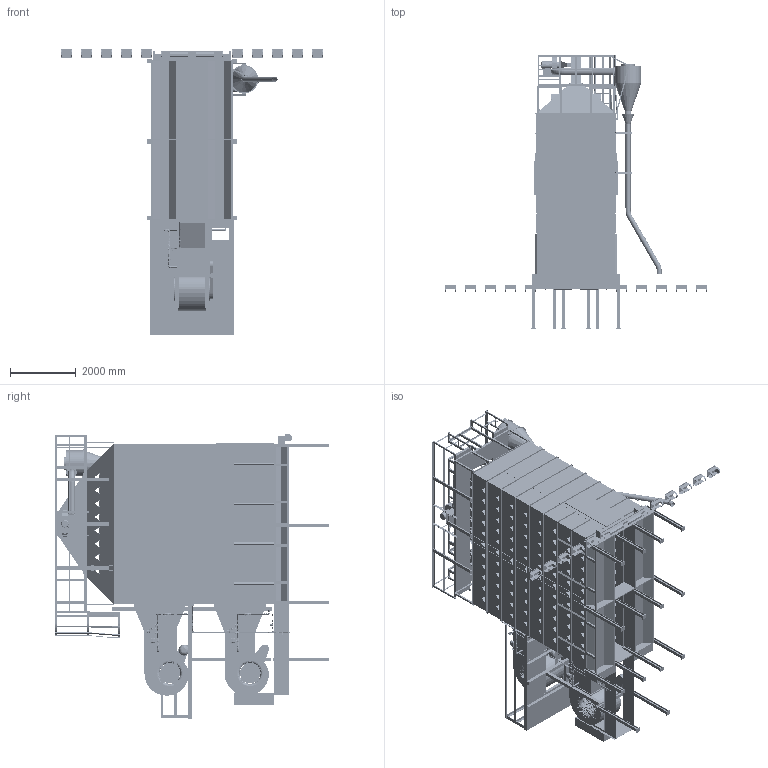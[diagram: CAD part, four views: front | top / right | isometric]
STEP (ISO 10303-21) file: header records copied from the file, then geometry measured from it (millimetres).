
FILE_DESCRIPTION(/* description */ ('PLAN AND ELEVATION VIEW FOR D16106 WITH ROOF & PRE-CLEANER'),/* implementation_level */ '2;1');
FILE_NAME(/* name */ 'C:\Engineering\Designs\Sales\Dryer\Workspaces\D16 All\D16106PC.stp',/* time_stamp */ '2025-01-06T16:46:10-06:00',/* author */ ('max.fleming'),/* organization */ (''),/* preprocessor_version */ 'ST-DEVELOPER v18.1',/* originating_system */ 'Autodesk Inventor 2022',/* authorisation */ '');
FILE_SCHEMA (('AUTOMOTIVE_DESIGN { 1 0 10303 214 3 1 1 }'));
Products named in the file (40): D16106PC; 16FT FRAME; 8FT LHRH FRAME; 16FT ROOF GF; 8FTRoof GF LHRH; Tongue; 16FT BODY TIER; LH Body; RH Body; LH Body_MIR6; RH Body_MIR6; Outside Splice; Standard Size End Plenum Panels; Ladder 2' section; Trans & Blower; Belt Shield; Screen Guard; LP Fuel; Stiffeners; Platform; Platform Support 1-T; 1 Tier Vertical Support; 6'' CROSS AUGER; Leg Kit-02; LP Inlet; 16FT PRE CLEANER RH DIS; 16FT Pre Cleaner Grav Assy; Aspirator Blower CCW; Aspirator Blower; NEMA MOTOR 182T; 16FT FULL CATWALK W PRE CLEANER MOUNTS; Pre-Cleaner Cyclone; 16FT Aspirator 8in Pipe; 6in PIPE SLEEVE 11L; 6IN ELBOW; 6in PIPE 60L; PIPE SUPPORT; Ladder Cage; 6IN HANGER; Liquid Propane Pipe
Assembly tree (105 placements, depth 4):
  D16106PC
    16FT FRAME
      8FT LHRH FRAME  x2
    16FT ROOF GF
      8FTRoof GF LHRH  x2
    Tongue
    16FT BODY TIER  x8
      LH Body
      RH Body
      LH Body_MIR6
      RH Body_MIR6
      Outside Splice
    Leg Kit-02  x12
    Standard Size End Plenum Panels  x13
    Trans & Blower  x2
    Belt Shield  x2
    Screen Guard  x4
    LP Fuel  x2
    Stiffeners  x16
    Platform
    Platform Support 1-T
    1 Tier Vertical Support  x6
    LP Inlet
    16FT PRE CLEANER RH DIS
      16FT Pre Cleaner Grav Assy
      Aspirator Blower CCW
        Aspirator Blower
        NEMA MOTOR 182T
      16FT FULL CATWALK W PRE CLEANER MOUNTS
      Pre-Cleaner Cyclone
      16FT Aspirator 8in Pipe
    6in PIPE SLEEVE 11L
    6in PIPE 60L  x3
    6IN ELBOW  x2
    6IN HANGER  x3
    PIPE SUPPORT  x2
    Ladder Cage
    Liquid Propane Pipe  x4
  Ladder 2' section
  6'' CROSS AUGER
Bounding box: 8007.35 x 8339.54 x 8695.06 mm (x, y, z)
Volume: 47307568879.9 mm3; surface area: 715028636.2 mm2
Topology: 456 solids, 614 shells, 36780 faces, 95503 edges, 60940 vertices
Faces by surface type: plane 17123, cylinder 10697, bspline 3779, cone 3396, torus 1601, sphere 184
Full cylindrical faces by diameter (mm): 1 x10, 1.651 x6, 1.753 x6, 1.778 x12, 2.019 x4, 2.108 x2, 2.286 x24, 2.489 x2, 2.54 x4, 3.091 x288, 3.175 x5, 3.251 x20, 3.306 x288, 3.522 x2, 3.658 x28, 3.8 x16, 4 x384, 4.039 x20, 4.166 x256, 4.191 x4, 4.229 x2, 4.267 x2, 4.369 x8, 4.445 x8, 4.701 x592, 4.762 x16, 4.851 x8, 4.928 x32, 5.283 x2, 5.527 x20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
Entity records: 771167 total; most frequent: CARTESIAN_POINT 341982, ORIENTED_EDGE 89816, DIRECTION 80259, EDGE_CURVE 45048, VERTEX_POINT 28781, AXIS2_PLACEMENT_3D 27502, LINE 25255, VECTOR 25255
